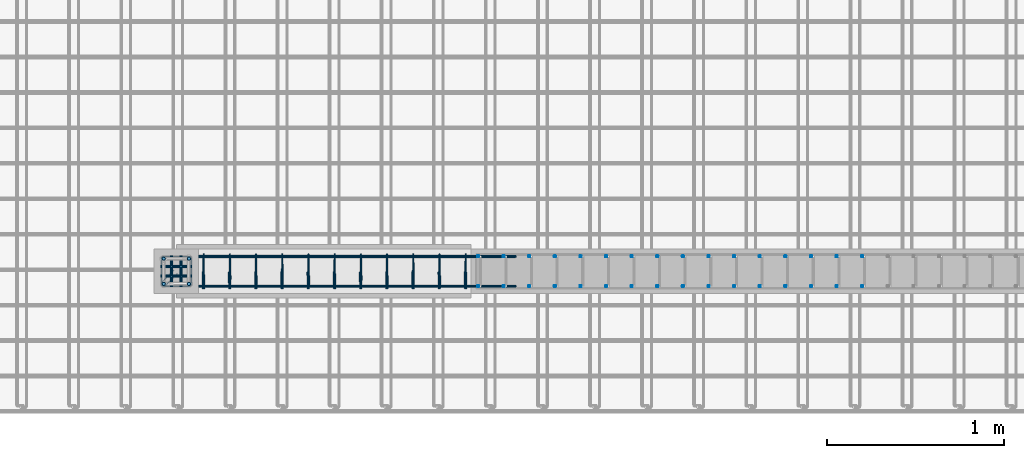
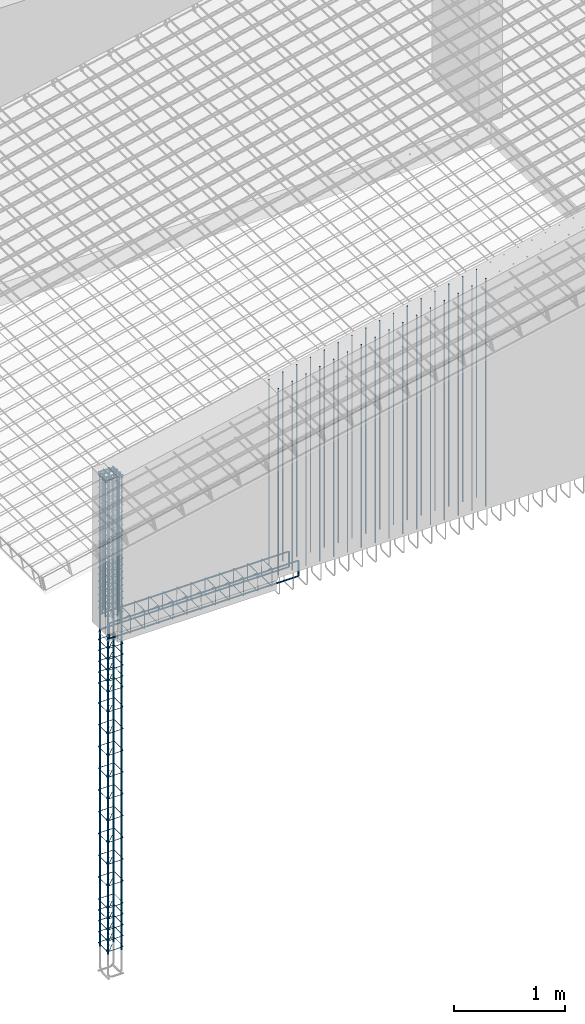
# One storey, part 2 of 17: 21 reinforcing bars.
"""IFC4 building model written with IfcOpenShell, lengths in metres."""

from ifc_helpers import new_model, entity, si_unit, frame, origin_with_axes, place, context, project, spatial, source, transform, mapped, element, save


model = new_model("IFC4")

# Units and contexts
model_context = context("Model", 3, precision=1e-05, world=origin_with_axes())
ifc_project = project(units=[si_unit("LENGTHUNIT", "METRE"), si_unit("AREAUNIT", "SQUARE_METRE"), si_unit("VOLUMEUNIT", "CUBIC_METRE"), si_unit("MASSUNIT", "GRAM", prefix="KILO"), si_unit("TIMEUNIT", "SECOND"), si_unit("PLANEANGLEUNIT", "RADIAN"), si_unit("SOLIDANGLEUNIT", "STERADIAN"), si_unit("THERMODYNAMICTEMPERATUREUNIT", "DEGREE_CELSIUS")], contexts=[model_context])

# Site, building, storey
placement_1 = place(None, origin_with_axes())
site = spatial("IfcSite", under=ifc_project, at=placement_1, Name="Italia", CompositionType="ELEMENT")
building = spatial("IfcBuilding", under=site, at=placement_1, Name="Abitazione", CompositionType="ELEMENT")
storey_placement = place(None, frame((0.0, 0.0, 3.569999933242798), z_axis=(0.0, 0.0, 1.0), x_axis=(1.0, 0.0, 0.0)))
storey = spatial("IfcBuildingStorey", under=building, at=storey_placement, Name="Storey 1", CompositionType="ELEMENT", Elevation=3.569999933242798)

# Reinforcing bars
shared_shape_1 = source(origin_with_axes(), model_context, "Body", "AdvancedSweptSolid", [
    entity("IfcSweptDiskSolid", entity("IfcIndexedPolyCurve", entity("IfcCartesianPointList3D", [[5.05683, 0.874, 3.57], [5.05683, 0.874, 6.08361]]), [entity("IfcLineIndex", [1, 2])], False), 0.006),
])
placement_2 = place(placement_1, origin_with_axes())
reinforcing_bar_1_placement = place(placement_2, origin_with_axes())
element("IfcReinforcingBar", 1, at=reinforcing_bar_1_placement, inside=storey, BarLength=2.51361, CrossSectionArea=0.0001131, NominalDiameter=0.012, context=model_context, shape_type="MappedRepresentation", body=[
    mapped(shared_shape_1, transform((0.0, -0.168, 0.0), x_axis=(1.0, 0.0, 0.0), y_axis=(0.0, 1.0, 0.0), z_axis=(0.0, 0.0, 1.0), scale=1.0)),
    mapped(shared_shape_1, transform((0.0, 0.0, 0.0), x_axis=(1.0, 0.0, 0.0), y_axis=(0.0, 1.0, 0.0), z_axis=(0.0, 0.0, 1.0), scale=1.0)),
])
shared_shape_2 = source(origin_with_axes(), model_context, "Body", "AdvancedSweptSolid", [
    entity("IfcSweptDiskSolid", entity("IfcIndexedPolyCurve", entity("IfcCartesianPointList3D", [[4.91244, 0.874, 3.57], [4.91244, 0.874, 6.05324]]), [entity("IfcLineIndex", [1, 2])], False), 0.006),
])
reinforcing_bar_2_placement = place(placement_2, origin_with_axes())
element("IfcReinforcingBar", 2, at=reinforcing_bar_2_placement, inside=storey, BarLength=2.48324, CrossSectionArea=0.0001131, NominalDiameter=0.012, context=model_context, shape_type="MappedRepresentation", body=[
    mapped(shared_shape_2, transform((0.0, -0.168, 0.0), x_axis=(1.0, 0.0, 0.0), y_axis=(0.0, 1.0, 0.0), z_axis=(0.0, 0.0, 1.0), scale=1.0)),
    mapped(shared_shape_2, transform((0.0, 0.0, 0.0), x_axis=(1.0, 0.0, 0.0), y_axis=(0.0, 1.0, 0.0), z_axis=(0.0, 0.0, 1.0), scale=1.0)),
])
shared_shape_3 = source(origin_with_axes(), model_context, "Body", "AdvancedSweptSolid", [
    entity("IfcSweptDiskSolid", entity("IfcIndexedPolyCurve", entity("IfcCartesianPointList3D", [[4.76805, 0.874, 3.57], [4.76805, 0.874, 6.02288]]), [entity("IfcLineIndex", [1, 2])], False), 0.006),
])
reinforcing_bar_3_placement = place(placement_2, origin_with_axes())
element("IfcReinforcingBar", 3, at=reinforcing_bar_3_placement, inside=storey, BarLength=2.45288, CrossSectionArea=0.0001131, NominalDiameter=0.012, context=model_context, shape_type="MappedRepresentation", body=[
    mapped(shared_shape_3, transform((0.0, -0.168, 0.0), x_axis=(1.0, 0.0, 0.0), y_axis=(0.0, 1.0, 0.0), z_axis=(0.0, 0.0, 1.0), scale=1.0)),
    mapped(shared_shape_3, transform((0.0, 0.0, 0.0), x_axis=(1.0, 0.0, 0.0), y_axis=(0.0, 1.0, 0.0), z_axis=(0.0, 0.0, 1.0), scale=1.0)),
])
shared_shape_4 = source(origin_with_axes(), model_context, "Body", "AdvancedSweptSolid", [
    entity("IfcSweptDiskSolid", entity("IfcIndexedPolyCurve", entity("IfcCartesianPointList3D", [[4.62367, 0.874, 3.57], [4.62367, 0.874, 5.99251]]), [entity("IfcLineIndex", [1, 2])], False), 0.006),
])
reinforcing_bar_4_placement = place(placement_2, origin_with_axes())
element("IfcReinforcingBar", 4, at=reinforcing_bar_4_placement, inside=storey, BarLength=2.42251, CrossSectionArea=0.0001131, NominalDiameter=0.012, context=model_context, shape_type="MappedRepresentation", body=[
    mapped(shared_shape_4, transform((0.0, -0.168, 0.0), x_axis=(1.0, 0.0, 0.0), y_axis=(0.0, 1.0, 0.0), z_axis=(0.0, 0.0, 1.0), scale=1.0)),
    mapped(shared_shape_4, transform((0.0, 0.0, 0.0), x_axis=(1.0, 0.0, 0.0), y_axis=(0.0, 1.0, 0.0), z_axis=(0.0, 0.0, 1.0), scale=1.0)),
])
shared_shape_5 = source(origin_with_axes(), model_context, "Body", "AdvancedSweptSolid", [
    entity("IfcSweptDiskSolid", entity("IfcIndexedPolyCurve", entity("IfcCartesianPointList3D", [[4.47928, 0.874, 3.57], [4.47928, 0.874, 5.96214]]), [entity("IfcLineIndex", [1, 2])], False), 0.006),
])
reinforcing_bar_5_placement = place(placement_2, origin_with_axes())
element("IfcReinforcingBar", 5, at=reinforcing_bar_5_placement, inside=storey, BarLength=2.39214, CrossSectionArea=0.0001131, NominalDiameter=0.012, context=model_context, shape_type="MappedRepresentation", body=[
    mapped(shared_shape_5, transform((0.0, -0.168, 0.0), x_axis=(1.0, 0.0, 0.0), y_axis=(0.0, 1.0, 0.0), z_axis=(0.0, 0.0, 1.0), scale=1.0)),
    mapped(shared_shape_5, transform((0.0, 0.0, 0.0), x_axis=(1.0, 0.0, 0.0), y_axis=(0.0, 1.0, 0.0), z_axis=(0.0, 0.0, 1.0), scale=1.0)),
])
shared_shape_6 = source(origin_with_axes(), model_context, "Body", "AdvancedSweptSolid", [
    entity("IfcSweptDiskSolid", entity("IfcIndexedPolyCurve", entity("IfcCartesianPointList3D", [[4.33489, 0.874, 3.57], [4.33489, 0.874, 5.93177]]), [entity("IfcLineIndex", [1, 2])], False), 0.006),
])
reinforcing_bar_6_placement = place(placement_2, origin_with_axes())
element("IfcReinforcingBar", 6, at=reinforcing_bar_6_placement, inside=storey, BarLength=2.36177, CrossSectionArea=0.0001131, NominalDiameter=0.012, context=model_context, shape_type="MappedRepresentation", body=[
    mapped(shared_shape_6, transform((0.0, -0.168, 0.0), x_axis=(1.0, 0.0, 0.0), y_axis=(0.0, 1.0, 0.0), z_axis=(0.0, 0.0, 1.0), scale=1.0)),
    mapped(shared_shape_6, transform((0.0, 0.0, 0.0), x_axis=(1.0, 0.0, 0.0), y_axis=(0.0, 1.0, 0.0), z_axis=(0.0, 0.0, 1.0), scale=1.0)),
])
shared_shape_7 = source(origin_with_axes(), model_context, "Body", "AdvancedSweptSolid", [
    entity("IfcSweptDiskSolid", entity("IfcIndexedPolyCurve", entity("IfcCartesianPointList3D", [[4.1905, 0.874, 3.57], [4.1905, 0.874, 5.9014]]), [entity("IfcLineIndex", [1, 2])], False), 0.006),
])
reinforcing_bar_7_placement = place(placement_2, origin_with_axes())
element("IfcReinforcingBar", 7, at=reinforcing_bar_7_placement, inside=storey, BarLength=2.3314, CrossSectionArea=0.0001131, NominalDiameter=0.012, context=model_context, shape_type="MappedRepresentation", body=[
    mapped(shared_shape_7, transform((0.0, -0.168, 0.0), x_axis=(1.0, 0.0, 0.0), y_axis=(0.0, 1.0, 0.0), z_axis=(0.0, 0.0, 1.0), scale=1.0)),
    mapped(shared_shape_7, transform((0.0, 0.0, 0.0), x_axis=(1.0, 0.0, 0.0), y_axis=(0.0, 1.0, 0.0), z_axis=(0.0, 0.0, 1.0), scale=1.0)),
])
shared_shape_8 = source(origin_with_axes(), model_context, "Body", "AdvancedSweptSolid", [
    entity("IfcSweptDiskSolid", entity("IfcIndexedPolyCurve", entity("IfcCartesianPointList3D", [[4.04611, 0.874, 3.57], [4.04611, 0.874, 5.87103]]), [entity("IfcLineIndex", [1, 2])], False), 0.006),
])
reinforcing_bar_8_placement = place(placement_2, origin_with_axes())
element("IfcReinforcingBar", 8, at=reinforcing_bar_8_placement, inside=storey, BarLength=2.30103, CrossSectionArea=0.0001131, NominalDiameter=0.012, context=model_context, shape_type="MappedRepresentation", body=[
    mapped(shared_shape_8, transform((0.0, -0.168, 0.0), x_axis=(1.0, 0.0, 0.0), y_axis=(0.0, 1.0, 0.0), z_axis=(0.0, 0.0, 1.0), scale=1.0)),
    mapped(shared_shape_8, transform((0.0, 0.0, 0.0), x_axis=(1.0, 0.0, 0.0), y_axis=(0.0, 1.0, 0.0), z_axis=(0.0, 0.0, 1.0), scale=1.0)),
])
shared_shape_9 = source(origin_with_axes(), model_context, "Body", "AdvancedSweptSolid", [
    entity("IfcSweptDiskSolid", entity("IfcIndexedPolyCurve", entity("IfcCartesianPointList3D", [[3.90172, 0.874, 3.57], [3.90172, 0.874, 5.84066]]), [entity("IfcLineIndex", [1, 2])], False), 0.006),
])
reinforcing_bar_9_placement = place(placement_2, origin_with_axes())
element("IfcReinforcingBar", 9, at=reinforcing_bar_9_placement, inside=storey, BarLength=2.27066, CrossSectionArea=0.0001131, NominalDiameter=0.012, context=model_context, shape_type="MappedRepresentation", body=[
    mapped(shared_shape_9, transform((0.0, -0.168, 0.0), x_axis=(1.0, 0.0, 0.0), y_axis=(0.0, 1.0, 0.0), z_axis=(0.0, 0.0, 1.0), scale=1.0)),
    mapped(shared_shape_9, transform((0.0, 0.0, 0.0), x_axis=(1.0, 0.0, 0.0), y_axis=(0.0, 1.0, 0.0), z_axis=(0.0, 0.0, 1.0), scale=1.0)),
])
shared_shape_10 = source(origin_with_axes(), model_context, "Body", "AdvancedSweptSolid", [
    entity("IfcSweptDiskSolid", entity("IfcIndexedPolyCurve", entity("IfcCartesianPointList3D", [[3.75733, 0.874, 3.57], [3.75733, 0.874, 5.81029]]), [entity("IfcLineIndex", [1, 2])], False), 0.006),
])
reinforcing_bar_10_placement = place(placement_2, origin_with_axes())
element("IfcReinforcingBar", 10, at=reinforcing_bar_10_placement, inside=storey, BarLength=2.24029, CrossSectionArea=0.0001131, NominalDiameter=0.012, context=model_context, shape_type="MappedRepresentation", body=[
    mapped(shared_shape_10, transform((0.0, -0.168, 0.0), x_axis=(1.0, 0.0, 0.0), y_axis=(0.0, 1.0, 0.0), z_axis=(0.0, 0.0, 1.0), scale=1.0)),
    mapped(shared_shape_10, transform((0.0, 0.0, 0.0), x_axis=(1.0, 0.0, 0.0), y_axis=(0.0, 1.0, 0.0), z_axis=(0.0, 0.0, 1.0), scale=1.0)),
])
shared_shape_11 = source(origin_with_axes(), model_context, "Body", "AdvancedSweptSolid", [
    entity("IfcSweptDiskSolid", entity("IfcIndexedPolyCurve", entity("IfcCartesianPointList3D", [[3.61294, 0.874, 3.57], [3.61294, 0.874, 5.77992]]), [entity("IfcLineIndex", [1, 2])], False), 0.006),
])
reinforcing_bar_11_placement = place(placement_2, origin_with_axes())
element("IfcReinforcingBar", 11, at=reinforcing_bar_11_placement, inside=storey, BarLength=2.20992, CrossSectionArea=0.0001131, NominalDiameter=0.012, context=model_context, shape_type="MappedRepresentation", body=[
    mapped(shared_shape_11, transform((0.0, -0.168, 0.0), x_axis=(1.0, 0.0, 0.0), y_axis=(0.0, 1.0, 0.0), z_axis=(0.0, 0.0, 1.0), scale=1.0)),
    mapped(shared_shape_11, transform((0.0, 0.0, 0.0), x_axis=(1.0, 0.0, 0.0), y_axis=(0.0, 1.0, 0.0), z_axis=(0.0, 0.0, 1.0), scale=1.0)),
])
shared_shape_12 = source(origin_with_axes(), model_context, "Body", "AdvancedSweptSolid", [
    entity("IfcSweptDiskSolid", entity("IfcIndexedPolyCurve", entity("IfcCartesianPointList3D", [[3.46855, 0.874, 3.57], [3.46855, 0.874, 5.74955]]), [entity("IfcLineIndex", [1, 2])], False), 0.006),
])
reinforcing_bar_12_placement = place(placement_2, origin_with_axes())
element("IfcReinforcingBar", 12, at=reinforcing_bar_12_placement, inside=storey, BarLength=2.17955, CrossSectionArea=0.0001131, NominalDiameter=0.012, context=model_context, shape_type="MappedRepresentation", body=[
    mapped(shared_shape_12, transform((0.0, -0.168, 0.0), x_axis=(1.0, 0.0, 0.0), y_axis=(0.0, 1.0, 0.0), z_axis=(0.0, 0.0, 1.0), scale=1.0)),
    mapped(shared_shape_12, transform((0.0, 0.0, 0.0), x_axis=(1.0, 0.0, 0.0), y_axis=(0.0, 1.0, 0.0), z_axis=(0.0, 0.0, 1.0), scale=1.0)),
])
shared_shape_13 = source(origin_with_axes(), model_context, "Body", "AdvancedSweptSolid", [
    entity("IfcSweptDiskSolid", entity("IfcIndexedPolyCurve", entity("IfcCartesianPointList3D", [[3.32417, 0.874, 3.57], [3.32417, 0.874, 5.71918]]), [entity("IfcLineIndex", [1, 2])], False), 0.006),
])
reinforcing_bar_13_placement = place(placement_2, origin_with_axes())
element("IfcReinforcingBar", 13, at=reinforcing_bar_13_placement, inside=storey, BarLength=2.14918, CrossSectionArea=0.0001131, NominalDiameter=0.012, context=model_context, shape_type="MappedRepresentation", body=[
    mapped(shared_shape_13, transform((0.0, -0.168, 0.0), x_axis=(1.0, 0.0, 0.0), y_axis=(0.0, 1.0, 0.0), z_axis=(0.0, 0.0, 1.0), scale=1.0)),
    mapped(shared_shape_13, transform((0.0, 0.0, 0.0), x_axis=(1.0, 0.0, 0.0), y_axis=(0.0, 1.0, 0.0), z_axis=(0.0, 0.0, 1.0), scale=1.0)),
])
shared_shape_14 = source(origin_with_axes(), model_context, "Body", "AdvancedSweptSolid", [
    entity("IfcSweptDiskSolid", entity("IfcIndexedPolyCurve", entity("IfcCartesianPointList3D", [[3.17978, 0.874, 3.57], [3.17978, 0.874, 5.68881]]), [entity("IfcLineIndex", [1, 2])], False), 0.006),
])
reinforcing_bar_14_placement = place(placement_2, origin_with_axes())
element("IfcReinforcingBar", 14, at=reinforcing_bar_14_placement, inside=storey, BarLength=2.11881, CrossSectionArea=0.0001131, NominalDiameter=0.012, context=model_context, shape_type="MappedRepresentation", body=[
    mapped(shared_shape_14, transform((0.0, -0.168, 0.0), x_axis=(1.0, 0.0, 0.0), y_axis=(0.0, 1.0, 0.0), z_axis=(0.0, 0.0, 1.0), scale=1.0)),
    mapped(shared_shape_14, transform((0.0, 0.0, 0.0), x_axis=(1.0, 0.0, 0.0), y_axis=(0.0, 1.0, 0.0), z_axis=(0.0, 0.0, 1.0), scale=1.0)),
])
shared_shape_15 = source(origin_with_axes(), model_context, "Body", "AdvancedSweptSolid", [
    entity("IfcSweptDiskSolid", entity("IfcIndexedPolyCurve", entity("IfcCartesianPointList3D", [[3.03539, 0.874, 3.57], [3.03539, 0.874, 5.65844]]), [entity("IfcLineIndex", [1, 2])], False), 0.006),
])
reinforcing_bar_15_placement = place(placement_2, origin_with_axes())
element("IfcReinforcingBar", 15, at=reinforcing_bar_15_placement, inside=storey, BarLength=2.08844, CrossSectionArea=0.0001131, NominalDiameter=0.012, context=model_context, shape_type="MappedRepresentation", body=[
    mapped(shared_shape_15, transform((0.0, -0.168, 0.0), x_axis=(1.0, 0.0, 0.0), y_axis=(0.0, 1.0, 0.0), z_axis=(0.0, 0.0, 1.0), scale=1.0)),
    mapped(shared_shape_15, transform((0.0, 0.0, 0.0), x_axis=(1.0, 0.0, 0.0), y_axis=(0.0, 1.0, 0.0), z_axis=(0.0, 0.0, 1.0), scale=1.0)),
])
shared_shape_16 = source(origin_with_axes(), model_context, "Body", "AdvancedSweptSolid", [
    entity("IfcSweptDiskSolid", entity("IfcIndexedPolyCurve", entity("IfcCartesianPointList3D", [[2.891, 0.874, 3.57], [2.891, 0.874, 5.62807]]), [entity("IfcLineIndex", [1, 2])], False), 0.006),
])
reinforcing_bar_16_placement = place(placement_2, origin_with_axes())
element("IfcReinforcingBar", 16, at=reinforcing_bar_16_placement, inside=storey, BarLength=2.05807, CrossSectionArea=0.0001131, NominalDiameter=0.012, context=model_context, shape_type="MappedRepresentation", body=[
    mapped(shared_shape_16, transform((0.0, -0.168, 0.0), x_axis=(1.0, 0.0, 0.0), y_axis=(0.0, 1.0, 0.0), z_axis=(0.0, 0.0, 1.0), scale=1.0)),
    mapped(shared_shape_16, transform((0.0, 0.0, 0.0), x_axis=(1.0, 0.0, 0.0), y_axis=(0.0, 1.0, 0.0), z_axis=(0.0, 0.0, 1.0), scale=1.0)),
])
shared_shape_17 = source(origin_with_axes(), model_context, "Body", "AdvancedSweptSolid", [
    entity("IfcSweptDiskSolid", entity("IfcIndexedPolyCurve", entity("IfcCartesianPointList3D", [[1.119, 0.719, 0.0], [1.119, 0.719, 4.78761]]), [entity("IfcLineIndex", [1, 2])], False), 0.01),
])
reinforcing_bar_17_placement = place(placement_2, origin_with_axes())
element("IfcReinforcingBar", 17, at=reinforcing_bar_17_placement, inside=storey, BarLength=4.78761, CrossSectionArea=0.00031416, NominalDiameter=0.02, context=model_context, shape_type="MappedRepresentation", body=[
    mapped(shared_shape_17, transform((0.0, 0.142, 0.0), x_axis=(1.0, 0.0, 0.0), y_axis=(0.0, 1.0, 0.0), z_axis=(0.0, 0.0, 1.0), scale=1.0)),
    mapped(shared_shape_17, transform((0.0, 0.0, 0.0), x_axis=(1.0, 0.0, 0.0), y_axis=(0.0, 1.0, 0.0), z_axis=(0.0, 0.0, 1.0), scale=1.0)),
    mapped(shared_shape_17, transform((0.142, 0.0, 0.0), x_axis=(1.0, 0.0, 0.0), y_axis=(0.0, 1.0, 0.0), z_axis=(0.0, 0.0, 1.0), scale=1.0)),
    mapped(shared_shape_17, transform((0.142, 0.142, 0.0), x_axis=(1.0, 0.0, 0.0), y_axis=(0.0, 1.0, 0.0), z_axis=(0.0, 0.0, 1.0), scale=1.0)),
])
shared_shape_18 = source(origin_with_axes(), model_context, "Body", "AdvancedSweptSolid", [
    entity("IfcSweptDiskSolid", entity("IfcIndexedPolyCurve", entity("IfcCartesianPointList3D", [[1.117, 0.717, 3.695], [1.117, 0.717, 5.1953], [1.12004, 0.717, 5.2106], [1.12872, 0.717, 5.22358], [1.14169, 0.717, 5.23225], [1.157, 0.717, 5.2353], [1.279, 0.717, 5.2353]]), [entity("IfcLineIndex", [1, 2]), entity("IfcLineIndex", [2, 3]), entity("IfcLineIndex", [3, 4]), entity("IfcLineIndex", [4, 5]), entity("IfcLineIndex", [5, 6]), entity("IfcLineIndex", [6, 7])], False), 0.008),
])
reinforcing_bar_18_placement = place(placement_2, origin_with_axes())
element("IfcReinforcingBar", 18, at=reinforcing_bar_18_placement, inside=storey, BarLength=1.68472, CrossSectionArea=0.00020106, NominalDiameter=0.016, context=model_context, shape_type="MappedRepresentation", body=[
    mapped(shared_shape_18, transform((2.38, 1.48, 0.0), x_axis=(-1.0, 0.0, 0.0), y_axis=(0.0, -1.0, 0.0), z_axis=(0.0, 0.0, 1.0), scale=1.0)),
    mapped(shared_shape_18, transform((2.38, 1.534, 0.0), x_axis=(-1.0, 0.0, 0.0), y_axis=(0.0, -1.0, 0.0), z_axis=(0.0, 0.0, 1.0), scale=1.0)),
    mapped(shared_shape_18, transform((2.38, 1.58, 0.0), x_axis=(-1.0, 0.0, 0.0), y_axis=(0.0, -1.0, 0.0), z_axis=(0.0, 0.0, 1.0), scale=1.0)),
    mapped(shared_shape_18, transform((1.88, -0.4, 0.0), x_axis=(0.0, 1.0, 0.0), y_axis=(-1.0, 0.0, 0.0), z_axis=(0.0, 0.0, 1.0), scale=1.0)),
    mapped(shared_shape_18, transform((1.934, -0.4, 0.0), x_axis=(0.0, 1.0, 0.0), y_axis=(-1.0, 0.0, 0.0), z_axis=(0.0, 0.0, 1.0), scale=1.0)),
    mapped(shared_shape_18, transform((1.98, -0.4, 0.0), x_axis=(0.0, 1.0, 0.0), y_axis=(-1.0, 0.0, 0.0), z_axis=(0.0, 0.0, 1.0), scale=1.0)),
    mapped(shared_shape_18, transform((0.0, 0.1, 0.0), x_axis=(1.0, 0.0, 0.0), y_axis=(0.0, 1.0, 0.0), z_axis=(0.0, 0.0, 1.0), scale=1.0)),
    mapped(shared_shape_18, transform((0.0, 0.0459999, 0.0), x_axis=(1.0, 0.0, 0.0), y_axis=(0.0, 1.0, 0.0), z_axis=(0.0, 0.0, 1.0), scale=1.0)),
    mapped(shared_shape_18, transform((0.0, 0.0, 0.0), x_axis=(1.0, 0.0, 0.0), y_axis=(0.0, 1.0, 0.0), z_axis=(0.0, 0.0, 1.0), scale=1.0)),
    mapped(shared_shape_18, transform((0.5, 1.98, 0.0), x_axis=(0.0, -1.0, 0.0), y_axis=(1.0, 0.0, 0.0), z_axis=(0.0, 0.0, 1.0), scale=1.0)),
    mapped(shared_shape_18, transform((0.446, 1.98, 0.0), x_axis=(0.0, -1.0, 0.0), y_axis=(1.0, 0.0, 0.0), z_axis=(0.0, 0.0, 1.0), scale=1.0)),
    mapped(shared_shape_18, transform((0.4, 1.98, 0.0), x_axis=(0.0, -1.0, 0.0), y_axis=(1.0, 0.0, 0.0), z_axis=(0.0, 0.0, 1.0), scale=1.0)),
])
shared_shape_19 = source(origin_with_axes(), model_context, "Body", "AdvancedSweptSolid", [
    entity("IfcSweptDiskSolid", entity("IfcIndexedPolyCurve", entity("IfcCartesianPointList3D", [[1.19621, 0.776711, 0.041], [1.12843, 0.708929, 0.0401551], [1.12136, 0.706, 0.0400877], [1.116, 0.706, 0.0400404], [1.11217, 0.706761, 0.040006], [1.10893, 0.708929, 0.0399717], [1.10676, 0.712173, 0.0399373], [1.106, 0.716, 0.0399029], [1.106, 0.864, 0.0385984], [1.10676, 0.867827, 0.038564], [1.10893, 0.871071, 0.0385297], [1.11217, 0.873239, 0.0384953], [1.116, 0.874, 0.0384609], [1.264, 0.874, 0.0371564], [1.26783, 0.873239, 0.037122], [1.27107, 0.871071, 0.0370877], [1.27324, 0.867827, 0.0370533], [1.274, 0.864, 0.0370189], [1.274, 0.716, 0.0357144], [1.27324, 0.712173, 0.0356801], [1.27107, 0.708929, 0.0356457], [1.26783, 0.706761, 0.0356113], [1.264, 0.706, 0.0355769], [1.116, 0.706, 0.0342724], [1.11217, 0.706761, 0.0342381], [1.10893, 0.708929, 0.0342037], [1.10676, 0.712173, 0.0341693], [1.106, 0.716, 0.0341349], [1.106, 0.721358, 0.0340877], [1.10893, 0.728429, 0.0340202], [1.17671, 0.796211, 0.0331753]]), [entity("IfcLineIndex", [1, 2]), entity("IfcLineIndex", [2, 3]), entity("IfcLineIndex", [3, 4]), entity("IfcLineIndex", [4, 5]), entity("IfcLineIndex", [5, 6]), entity("IfcLineIndex", [6, 7]), entity("IfcLineIndex", [7, 8]), entity("IfcLineIndex", [8, 9]), entity("IfcLineIndex", [9, 10]), entity("IfcLineIndex", [10, 11]), entity("IfcLineIndex", [11, 12]), entity("IfcLineIndex", [12, 13]), entity("IfcLineIndex", [13, 14]), entity("IfcLineIndex", [14, 15]), entity("IfcLineIndex", [15, 16]), entity("IfcLineIndex", [16, 17]), entity("IfcLineIndex", [17, 18]), entity("IfcLineIndex", [18, 19]), entity("IfcLineIndex", [19, 20]), entity("IfcLineIndex", [20, 21]), entity("IfcLineIndex", [21, 22]), entity("IfcLineIndex", [22, 23]), entity("IfcLineIndex", [23, 24]), entity("IfcLineIndex", [24, 25]), entity("IfcLineIndex", [25, 26]), entity("IfcLineIndex", [26, 27]), entity("IfcLineIndex", [27, 28]), entity("IfcLineIndex", [28, 29]), entity("IfcLineIndex", [29, 30]), entity("IfcLineIndex", [30, 31])], False), 0.003),
])
reinforcing_bar_19_placement = place(placement_2, origin_with_axes())
element("IfcReinforcingBar", 19, at=reinforcing_bar_19_placement, inside=storey, BarLength=0.887811, CrossSectionArea=2.8274e-05, NominalDiameter=0.006, context=model_context, shape_type="MappedRepresentation", body=[
    mapped(shared_shape_19, transform((0.0, 0.0, 4.21135), x_axis=(1.0, 0.0, 2.6504e-05), y_axis=(0.0, 1.0, -3.23828e-05), z_axis=(-2.6504e-05, 3.23828e-05, 1.0), scale=1.0)),
    mapped(shared_shape_19, transform((0.0, 0.0, 4.13758), x_axis=(1.0, 0.0, 2.6504e-05), y_axis=(0.0, 1.0, -3.23828e-05), z_axis=(-2.6504e-05, 3.23828e-05, 1.0), scale=1.0)),
    mapped(shared_shape_19, transform((0.0, 0.0, 4.35888), x_axis=(1.0, 0.0, 2.6504e-05), y_axis=(0.0, 1.0, -3.23828e-05), z_axis=(-2.6504e-05, 3.23828e-05, 1.0), scale=1.0)),
    mapped(shared_shape_19, transform((0.0, 0.0, 4.28511), x_axis=(1.0, 0.0, 2.6504e-05), y_axis=(0.0, 1.0, -3.23828e-05), z_axis=(-2.6504e-05, 3.23828e-05, 1.0), scale=1.0)),
    mapped(shared_shape_19, transform((0.0, 0.0, 3.76876), x_axis=(1.0, 0.0, 0.0), y_axis=(0.0, 1.0, 0.0), z_axis=(0.0, 0.0, 1.0), scale=1.0)),
    mapped(shared_shape_19, transform((0.0, 0.0, 4.43264), x_axis=(1.0, 0.0, 2.6504e-05), y_axis=(0.0, 1.0, -3.23828e-05), z_axis=(-2.6504e-05, 3.23828e-05, 1.0), scale=1.0)),
    mapped(shared_shape_19, transform((0.0, 0.0, 3.91629), x_axis=(1.0, 0.0, 0.0), y_axis=(0.0, 1.0, 0.0), z_axis=(0.0, 0.0, 1.0), scale=1.0)),
    mapped(shared_shape_19, transform((0.0, 0.0, 3.84253), x_axis=(1.0, 0.0, 0.0), y_axis=(0.0, 1.0, 0.0), z_axis=(0.0, 0.0, 1.0), scale=1.0)),
    mapped(shared_shape_19, transform((0.0, 0.0, 4.06382), x_axis=(1.0, 0.0, 2.6504e-05), y_axis=(0.0, 1.0, -3.23828e-05), z_axis=(-2.6504e-05, 3.23828e-05, 1.0), scale=1.0)),
    mapped(shared_shape_19, transform((0.0, 0.0, 3.99005), x_axis=(1.0, 0.0, 2.6504e-05), y_axis=(0.0, 1.0, -3.23828e-05), z_axis=(-2.6504e-05, 3.23828e-05, 1.0), scale=1.0)),
    mapped(shared_shape_19, transform((0.0, 0.0, 4.94899), x_axis=(1.0, 0.0, 2.6504e-05), y_axis=(0.0, 1.0, -3.23828e-05), z_axis=(-2.6504e-05, 3.23828e-05, 1.0), scale=1.0)),
    mapped(shared_shape_19, transform((0.0, 0.0, 4.87523), x_axis=(1.0, 0.0, 2.6504e-05), y_axis=(0.0, 1.0, -3.23828e-05), z_axis=(-2.6504e-05, 3.23828e-05, 1.0), scale=1.0)),
    mapped(shared_shape_19, transform((0.0, 0.0, 5.09652), x_axis=(1.0, 0.0, 2.6504e-05), y_axis=(0.0, 1.0, -3.23828e-05), z_axis=(-2.6504e-05, 3.23828e-05, 1.0), scale=1.0)),
    mapped(shared_shape_19, transform((0.0, 0.0, 5.02276), x_axis=(1.0, 0.0, 2.6504e-05), y_axis=(0.0, 1.0, -3.23828e-05), z_axis=(-2.6504e-05, 3.23828e-05, 1.0), scale=1.0)),
    mapped(shared_shape_19, transform((0.0, 0.0, 4.50641), x_axis=(1.0, 0.0, 2.6504e-05), y_axis=(0.0, 1.0, -3.23828e-05), z_axis=(-2.6504e-05, 3.23828e-05, 1.0), scale=1.0)),
    mapped(shared_shape_19, transform((0.0, 0.0, 5.17029), x_axis=(1.0, 0.0, 2.6504e-05), y_axis=(0.0, 1.0, -3.23828e-05), z_axis=(-2.6504e-05, 3.23828e-05, 1.0), scale=1.0)),
    mapped(shared_shape_19, transform((0.0, 0.0, 4.65394), x_axis=(1.0, 0.0, 2.6504e-05), y_axis=(0.0, 1.0, -3.23828e-05), z_axis=(-2.6504e-05, 3.23828e-05, 1.0), scale=1.0)),
    mapped(shared_shape_19, transform((0.0, 0.0, 4.58017), x_axis=(1.0, 0.0, 2.6504e-05), y_axis=(0.0, 1.0, -3.23828e-05), z_axis=(-2.6504e-05, 3.23828e-05, 1.0), scale=1.0)),
    mapped(shared_shape_19, transform((0.0, 0.0, 4.80146), x_axis=(1.0, 0.0, 2.6504e-05), y_axis=(0.0, 1.0, -3.23828e-05), z_axis=(-2.6504e-05, 3.23828e-05, 1.0), scale=1.0)),
    mapped(shared_shape_19, transform((0.0, 0.0, 4.7277), x_axis=(1.0, 0.0, 2.6504e-05), y_axis=(0.0, 1.0, -3.23828e-05), z_axis=(-2.6504e-05, 3.23828e-05, 1.0), scale=1.0)),
    mapped(shared_shape_19, transform((0.0, 0.0, 0.964499), x_axis=(1.0, 0.0, 0.0), y_axis=(0.0, 1.0, 0.0), z_axis=(0.0, 0.0, 1.0), scale=1.0)),
    mapped(shared_shape_19, transform((0.0, 0.0, 0.7245), x_axis=(1.0, 0.0, 0.0), y_axis=(0.0, 1.0, 0.0), z_axis=(0.0, 0.0, 1.0), scale=1.0)),
    mapped(shared_shape_19, transform((0.0, 0.0, 1.4445), x_axis=(1.0, 0.0, 0.0), y_axis=(0.0, 1.0, 0.0), z_axis=(0.0, 0.0, 1.0), scale=1.0)),
    mapped(shared_shape_19, transform((0.0, 0.0, 1.2045), x_axis=(1.0, 0.0, 0.0), y_axis=(0.0, 1.0, 0.0), z_axis=(0.0, 0.0, 1.0), scale=1.0)),
    mapped(shared_shape_19, transform((0.0, 0.0, 0.0), x_axis=(1.0, 0.0, 0.0), y_axis=(0.0, 1.0, 0.0), z_axis=(0.0, 0.0, 1.0), scale=1.0)),
    mapped(shared_shape_19, transform((0.0, 0.0, 1.6845), x_axis=(1.0, 0.0, 0.0), y_axis=(0.0, 1.0, 0.0), z_axis=(0.0, 0.0, 1.0), scale=1.0)),
    mapped(shared_shape_19, transform((0.0, 0.0, 0.24), x_axis=(1.0, 0.0, 0.0), y_axis=(0.0, 1.0, 0.0), z_axis=(0.0, 0.0, 1.0), scale=1.0)),
    mapped(shared_shape_19, transform((0.0, 0.0, 0.12), x_axis=(1.0, 0.0, 0.0), y_axis=(0.0, 1.0, 0.0), z_axis=(0.0, 0.0, 1.0), scale=1.0)),
    mapped(shared_shape_19, transform((0.0, 0.0, 0.48), x_axis=(1.0, 0.0, 0.0), y_axis=(0.0, 1.0, 0.0), z_axis=(0.0, 0.0, 1.0), scale=1.0)),
    mapped(shared_shape_19, transform((0.0, 0.0, 0.36), x_axis=(1.0, 0.0, 0.0), y_axis=(0.0, 1.0, 0.0), z_axis=(0.0, 0.0, 1.0), scale=1.0)),
    mapped(shared_shape_19, transform((0.0, 0.0, 3.105), x_axis=(1.0, 0.0, 0.0), y_axis=(0.0, 1.0, 0.0), z_axis=(0.0, 0.0, 1.0), scale=1.0)),
    mapped(shared_shape_19, transform((0.0, 0.0, 2.985), x_axis=(1.0, 0.0, 0.0), y_axis=(0.0, 1.0, 0.0), z_axis=(0.0, 0.0, 1.0), scale=1.0)),
    mapped(shared_shape_19, transform((0.0, 0.0, 3.345), x_axis=(1.0, 0.0, 0.0), y_axis=(0.0, 1.0, 0.0), z_axis=(0.0, 0.0, 1.0), scale=1.0)),
    mapped(shared_shape_19, transform((0.0, 0.0, 3.225), x_axis=(1.0, 0.0, 0.0), y_axis=(0.0, 1.0, 0.0), z_axis=(0.0, 0.0, 1.0), scale=1.0)),
    mapped(shared_shape_19, transform((0.0, 0.0, 1.9245), x_axis=(1.0, 0.0, 0.0), y_axis=(0.0, 1.0, 0.0), z_axis=(0.0, 0.0, 1.0), scale=1.0)),
    mapped(shared_shape_19, transform((0.0, 0.0, 3.695), x_axis=(1.0, 0.0, 0.0), y_axis=(0.0, 1.0, 0.0), z_axis=(0.0, 0.0, 1.0), scale=1.0)),
    mapped(shared_shape_19, transform((0.0, 0.0, 2.4045), x_axis=(1.0, 0.0, 0.0), y_axis=(0.0, 1.0, 0.0), z_axis=(0.0, 0.0, 1.0), scale=1.0)),
    mapped(shared_shape_19, transform((0.0, 0.0, 2.1645), x_axis=(1.0, 0.0, 0.0), y_axis=(0.0, 1.0, 0.0), z_axis=(0.0, 0.0, 1.0), scale=1.0)),
    mapped(shared_shape_19, transform((0.0, 0.0, 2.865), x_axis=(1.0, 0.0, 0.0), y_axis=(0.0, 1.0, 0.0), z_axis=(0.0, 0.0, 1.0), scale=1.0)),
    mapped(shared_shape_19, transform((0.0, 0.0, 2.6445), x_axis=(1.0, 0.0, 0.0), y_axis=(0.0, 1.0, 0.0), z_axis=(0.0, 0.0, 1.0), scale=1.0)),
])
shared_shape_20 = source(origin_with_axes(), model_context, "Body", "AdvancedSweptSolid", [
    entity("IfcSweptDiskSolid", entity("IfcIndexedPolyCurve", entity("IfcCartesianPointList3D", [[1.348, 0.764711, 3.57429], [1.34702, 0.696929, 3.64207], [1.34694, 0.694, 3.64914], [1.34687, 0.694, 3.656], [1.34683, 0.694761, 3.65983], [1.34679, 0.696929, 3.66307], [1.34675, 0.700173, 3.66524], [1.34671, 0.704, 3.666], [1.34494, 0.876, 3.666], [1.3449, 0.879827, 3.66524], [1.34486, 0.883071, 3.66307], [1.34482, 0.885239, 3.65983], [1.34478, 0.886, 3.656], [1.34302, 0.886, 3.484], [1.34298, 0.885239, 3.48017], [1.34294, 0.883071, 3.47693], [1.3429, 0.879827, 3.47476], [1.34286, 0.876, 3.474], [1.34109, 0.704, 3.474], [1.34105, 0.700173, 3.47476], [1.34101, 0.696929, 3.47693], [1.34097, 0.694761, 3.48017], [1.34093, 0.694, 3.484], [1.33917, 0.694, 3.656], [1.33913, 0.694761, 3.65983], [1.33909, 0.696929, 3.66307], [1.33905, 0.700173, 3.66524], [1.33901, 0.704, 3.666], [1.33894, 0.710858, 3.666], [1.33886, 0.717929, 3.66307], [1.33788, 0.785711, 3.59529]]), [entity("IfcLineIndex", [1, 2]), entity("IfcLineIndex", [2, 3]), entity("IfcLineIndex", [3, 4]), entity("IfcLineIndex", [4, 5]), entity("IfcLineIndex", [5, 6]), entity("IfcLineIndex", [6, 7]), entity("IfcLineIndex", [7, 8]), entity("IfcLineIndex", [8, 9]), entity("IfcLineIndex", [9, 10]), entity("IfcLineIndex", [10, 11]), entity("IfcLineIndex", [11, 12]), entity("IfcLineIndex", [12, 13]), entity("IfcLineIndex", [13, 14]), entity("IfcLineIndex", [14, 15]), entity("IfcLineIndex", [15, 16]), entity("IfcLineIndex", [16, 17]), entity("IfcLineIndex", [17, 18]), entity("IfcLineIndex", [18, 19]), entity("IfcLineIndex", [19, 20]), entity("IfcLineIndex", [20, 21]), entity("IfcLineIndex", [21, 22]), entity("IfcLineIndex", [22, 23]), entity("IfcLineIndex", [23, 24]), entity("IfcLineIndex", [24, 25]), entity("IfcLineIndex", [25, 26]), entity("IfcLineIndex", [26, 27]), entity("IfcLineIndex", [27, 28]), entity("IfcLineIndex", [28, 29]), entity("IfcLineIndex", [29, 30]), entity("IfcLineIndex", [30, 31])], False), 0.004),
])
reinforcing_bar_20_placement = place(placement_2, origin_with_axes())
element("IfcReinforcingBar", 20, at=reinforcing_bar_20_placement, inside=storey, BarLength=0.986828, CrossSectionArea=5.0265e-05, NominalDiameter=0.008, context=model_context, shape_type="MappedRepresentation", body=[
    mapped(shared_shape_20, transform((1.477, 0.0, 0.0), x_axis=(1.0, 0.0, 0.0), y_axis=(0.0, 1.0, 0.0), z_axis=(0.0, 0.0, 1.0), scale=1.0)),
    mapped(shared_shape_20, transform((0.8862, 0.0, 0.0), x_axis=(1.0, 0.0, 0.0), y_axis=(0.0, 1.0, 0.0), z_axis=(0.0, 0.0, 1.0), scale=1.0)),
    mapped(shared_shape_20, transform((1.0339, 0.0, 0.0), x_axis=(1.0, 0.0, 0.0), y_axis=(0.0, 1.0, 0.0), z_axis=(0.0, 0.0, 1.0), scale=1.0)),
    mapped(shared_shape_20, transform((1.1816, 0.0, 0.0), x_axis=(1.0, 0.0, 0.0), y_axis=(0.0, 1.0, 0.0), z_axis=(0.0, 0.0, 1.0), scale=1.0)),
    mapped(shared_shape_20, transform((1.3293, 0.0, 0.0), x_axis=(1.0, 0.0, 0.0), y_axis=(0.0, 1.0, 0.0), z_axis=(0.0, 0.0, 1.0), scale=1.0)),
    mapped(shared_shape_20, transform((0.7385, 0.0, 0.0), x_axis=(1.0, 0.0, 0.0), y_axis=(0.0, 1.0, 0.0), z_axis=(0.0, 0.0, 1.0), scale=1.0)),
    mapped(shared_shape_20, transform((0.1477, 0.0, 0.0), x_axis=(1.0, 0.0, 0.0), y_axis=(0.0, 1.0, 0.0), z_axis=(0.0, 0.0, 1.0), scale=1.0)),
    mapped(shared_shape_20, transform((0.2954, 0.0, 0.0), x_axis=(1.0, 0.0, 0.0), y_axis=(0.0, 1.0, 0.0), z_axis=(0.0, 0.0, 1.0), scale=1.0)),
    mapped(shared_shape_20, transform((0.4431, 0.0, 0.0), x_axis=(1.0, 0.0, 0.0), y_axis=(0.0, 1.0, 0.0), z_axis=(0.0, 0.0, 1.0), scale=1.0)),
    mapped(shared_shape_20, transform((0.5908, 0.0, 0.0), x_axis=(1.0, 0.0, 0.0), y_axis=(0.0, 1.0, 0.0), z_axis=(0.0, 0.0, 1.0), scale=1.0)),
    mapped(shared_shape_20, transform((0.0, 0.0, 0.0), x_axis=(1.0, 0.0, 0.0), y_axis=(0.0, 1.0, 0.0), z_axis=(0.0, 0.0, 1.0), scale=1.0)),
])
shared_shape_21 = source(origin_with_axes(), model_context, "Body", "AdvancedSweptSolid", [
    entity("IfcSweptDiskSolid", entity("IfcIndexedPolyCurve", entity("IfcCartesianPointList3D", [[1.125, 0.706, 3.655], [1.125, 0.706, 3.495], [1.12576, 0.706, 3.49117], [1.12793, 0.706, 3.48793], [1.13117, 0.706, 3.48576], [1.135, 0.706, 3.485], [1.19, 0.706, 3.485], [3.09, 0.706, 3.485], [3.09383, 0.706, 3.48576], [3.09707, 0.706, 3.48793], [3.09924, 0.706, 3.49117], [3.1, 0.706, 3.495], [3.1, 0.706, 3.655]]), [entity("IfcLineIndex", [1, 2]), entity("IfcLineIndex", [2, 3]), entity("IfcLineIndex", [3, 4]), entity("IfcLineIndex", [4, 5]), entity("IfcLineIndex", [5, 6]), entity("IfcLineIndex", [6, 7]), entity("IfcLineIndex", [7, 8]), entity("IfcLineIndex", [8, 9]), entity("IfcLineIndex", [9, 10]), entity("IfcLineIndex", [10, 11]), entity("IfcLineIndex", [11, 12]), entity("IfcLineIndex", [12, 13])], False), 0.008),
])
reinforcing_bar_21_placement = place(placement_2, origin_with_axes())
element("IfcReinforcingBar", 21, at=reinforcing_bar_21_placement, inside=storey, BarLength=2.30621, CrossSectionArea=0.00020106, NominalDiameter=0.016, context=model_context, shape_type="MappedRepresentation", body=[
    mapped(shared_shape_21, transform((0.0, 0.168, 0.0), x_axis=(1.0, 0.0, 0.0), y_axis=(0.0, 1.0, 0.0), z_axis=(0.0, 0.0, 1.0), scale=1.0)),
    mapped(shared_shape_21, transform((0.0, 0.0, 0.0), x_axis=(1.0, 0.0, 0.0), y_axis=(0.0, 1.0, 0.0), z_axis=(0.0, 0.0, 1.0), scale=1.0)),
    mapped(shared_shape_21, transform((0.0, 1.58, 7.14), x_axis=(1.0, 0.0, 0.0), y_axis=(0.0, -1.0, 0.0), z_axis=(0.0, 0.0, -1.0), scale=1.0)),
    mapped(shared_shape_21, transform((0.0, 1.412, 7.14), x_axis=(1.0, 0.0, 0.0), y_axis=(0.0, -1.0, 0.0), z_axis=(0.0, 0.0, -1.0), scale=1.0)),
])

save(model, "model.ifc")
